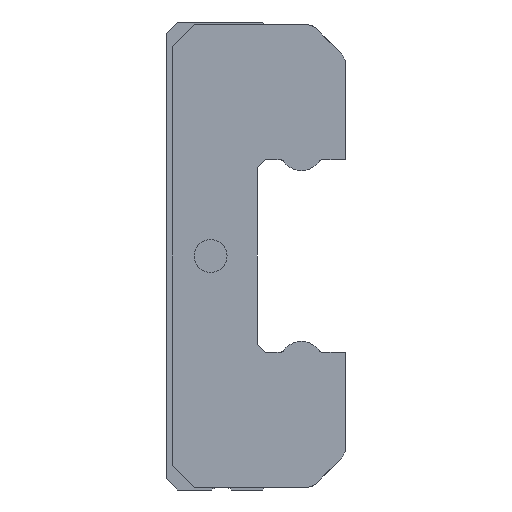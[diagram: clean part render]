
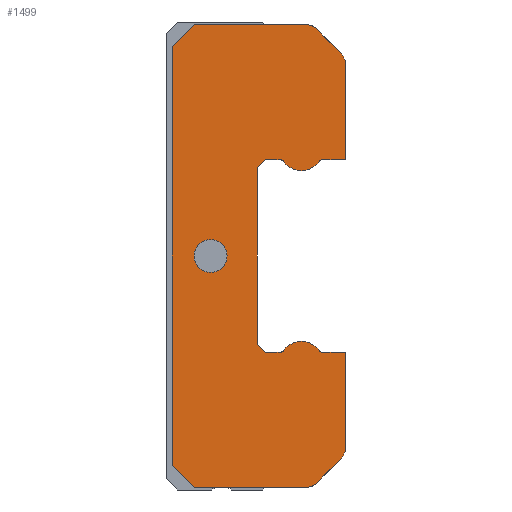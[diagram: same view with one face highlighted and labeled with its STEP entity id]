
A CAD part, left-side view. The second image highlights one B-rep face of the part: STEP entity #1499.
In plain terms, the highlighted planar face has unit normal (-1, 0, 0).
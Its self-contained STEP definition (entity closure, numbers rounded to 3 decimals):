
#64=CIRCLE('',#1576,0.5);
#70=CIRCLE('',#1603,0.5);
#80=CIRCLE('',#1622,0.6);
#81=CIRCLE('',#1623,0.5);
#82=CIRCLE('',#1624,0.5);
#83=CIRCLE('',#1625,0.15);
#84=CIRCLE('',#1626,0.8);
#85=CIRCLE('',#1627,0.15);
#86=CIRCLE('',#1628,0.15);
#87=CIRCLE('',#1629,0.8);
#88=CIRCLE('',#1630,0.15);
#302=ORIENTED_EDGE('',*,*,#673,.T.);
#303=ORIENTED_EDGE('',*,*,#674,.T.);
#304=ORIENTED_EDGE('',*,*,#652,.F.);
#305=ORIENTED_EDGE('',*,*,#675,.F.);
#306=ORIENTED_EDGE('',*,*,#561,.F.);
#307=ORIENTED_EDGE('',*,*,#557,.F.);
#308=ORIENTED_EDGE('',*,*,#551,.F.);
#309=ORIENTED_EDGE('',*,*,#578,.F.);
#310=ORIENTED_EDGE('',*,*,#644,.F.);
#311=ORIENTED_EDGE('',*,*,#633,.F.);
#312=ORIENTED_EDGE('',*,*,#642,.F.);
#313=ORIENTED_EDGE('',*,*,#639,.F.);
#314=ORIENTED_EDGE('',*,*,#602,.F.);
#315=ORIENTED_EDGE('',*,*,#676,.F.);
#316=ORIENTED_EDGE('',*,*,#654,.F.);
#317=ORIENTED_EDGE('',*,*,#677,.F.);
#318=ORIENTED_EDGE('',*,*,#678,.T.);
#319=ORIENTED_EDGE('',*,*,#679,.F.);
#320=ORIENTED_EDGE('',*,*,#680,.T.);
#321=ORIENTED_EDGE('',*,*,#681,.T.);
#322=ORIENTED_EDGE('',*,*,#682,.T.);
#323=ORIENTED_EDGE('',*,*,#683,.T.);
#324=ORIENTED_EDGE('',*,*,#684,.T.);
#325=ORIENTED_EDGE('',*,*,#685,.T.);
#326=ORIENTED_EDGE('',*,*,#686,.T.);
#327=ORIENTED_EDGE('',*,*,#687,.F.);
#328=ORIENTED_EDGE('',*,*,#688,.T.);
#551=EDGE_CURVE('',#759,#760,#907,.T.);
#557=EDGE_CURVE('',#760,#764,#64,.T.);
#561=EDGE_CURVE('',#764,#766,#913,.T.);
#578=EDGE_CURVE('',#779,#759,#930,.T.);
#602=EDGE_CURVE('',#798,#799,#952,.T.);
#633=EDGE_CURVE('',#820,#821,#979,.T.);
#639=EDGE_CURVE('',#799,#824,#70,.T.);
#642=EDGE_CURVE('',#824,#820,#986,.T.);
#644=EDGE_CURVE('',#821,#779,#988,.T.);
#652=EDGE_CURVE('',#828,#826,#996,.T.);
#654=EDGE_CURVE('',#829,#831,#998,.T.);
#673=EDGE_CURVE('',#846,#846,#80,.T.);
#674=EDGE_CURVE('',#847,#826,#1008,.T.);
#675=EDGE_CURVE('',#766,#828,#81,.T.);
#676=EDGE_CURVE('',#831,#798,#82,.T.);
#677=EDGE_CURVE('',#848,#829,#1009,.T.);
#678=EDGE_CURVE('',#848,#849,#83,.T.);
#679=EDGE_CURVE('',#850,#849,#84,.T.);
#680=EDGE_CURVE('',#850,#851,#85,.T.);
#681=EDGE_CURVE('',#851,#852,#1010,.T.);
#682=EDGE_CURVE('',#852,#853,#1011,.T.);
#683=EDGE_CURVE('',#853,#854,#1012,.T.);
#684=EDGE_CURVE('',#854,#855,#1013,.T.);
#685=EDGE_CURVE('',#855,#856,#1014,.T.);
#686=EDGE_CURVE('',#856,#857,#86,.T.);
#687=EDGE_CURVE('',#858,#857,#87,.T.);
#688=EDGE_CURVE('',#858,#847,#88,.T.);
#759=VERTEX_POINT('',#2183);
#760=VERTEX_POINT('',#2185);
#764=VERTEX_POINT('',#2197);
#766=VERTEX_POINT('',#2204);
#779=VERTEX_POINT('',#2236);
#798=VERTEX_POINT('',#2285);
#799=VERTEX_POINT('',#2287);
#820=VERTEX_POINT('',#2345);
#821=VERTEX_POINT('',#2347);
#824=VERTEX_POINT('',#2358);
#826=VERTEX_POINT('',#2376);
#828=VERTEX_POINT('',#2380);
#829=VERTEX_POINT('',#2384);
#831=VERTEX_POINT('',#2387);
#846=VERTEX_POINT('',#2423);
#847=VERTEX_POINT('',#2425);
#848=VERTEX_POINT('',#2429);
#849=VERTEX_POINT('',#2431);
#850=VERTEX_POINT('',#2433);
#851=VERTEX_POINT('',#2435);
#852=VERTEX_POINT('',#2437);
#853=VERTEX_POINT('',#2439);
#854=VERTEX_POINT('',#2441);
#855=VERTEX_POINT('',#2443);
#856=VERTEX_POINT('',#2445);
#857=VERTEX_POINT('',#2447);
#858=VERTEX_POINT('',#2449);
#907=LINE('',#2184,#1067);
#913=LINE('',#2203,#1073);
#930=LINE('',#2237,#1090);
#952=LINE('',#2286,#1112);
#979=LINE('',#2346,#1139);
#986=LINE('',#2362,#1146);
#988=LINE('',#2365,#1148);
#996=LINE('',#2381,#1156);
#998=LINE('',#2386,#1158);
#1008=LINE('',#2424,#1168);
#1009=LINE('',#2428,#1169);
#1010=LINE('',#2436,#1170);
#1011=LINE('',#2438,#1171);
#1012=LINE('',#2440,#1172);
#1013=LINE('',#2442,#1173);
#1014=LINE('',#2444,#1174);
#1067=VECTOR('',#1738,1000.);
#1073=VECTOR('',#1758,1000.);
#1090=VECTOR('',#1781,1000.);
#1112=VECTOR('',#1819,1000.);
#1139=VECTOR('',#1868,1000.);
#1146=VECTOR('',#1885,1000.);
#1148=VECTOR('',#1889,1000.);
#1156=VECTOR('',#1905,1000.);
#1158=VECTOR('',#1909,1000.);
#1168=VECTOR('',#1943,1000.);
#1169=VECTOR('',#1948,1000.);
#1170=VECTOR('',#1955,1000.);
#1171=VECTOR('',#1956,1000.);
#1172=VECTOR('',#1957,1000.);
#1173=VECTOR('',#1958,1000.);
#1174=VECTOR('',#1959,1000.);
#1241=EDGE_LOOP('',(#302));
#1242=EDGE_LOOP('',(#303,#304,#305,#306,#307,#308,#309,#310,#311,#312,#313,
#314,#315,#316,#317,#318,#319,#320,#321,#322,#323,#324,#325,#326,#327,#328));
#1341=FACE_BOUND('',#1241,.T.);
#1342=FACE_BOUND('',#1242,.T.);
#1438=PLANE('',#1621);
#1499=ADVANCED_FACE('',(#1341,#1342),#1438,.F.);
#1576=AXIS2_PLACEMENT_3D('',#2196,#1751,#1752);
#1603=AXIS2_PLACEMENT_3D('',#2357,#1879,#1880);
#1621=AXIS2_PLACEMENT_3D('',#2421,#1939,#1940);
#1622=AXIS2_PLACEMENT_3D('',#2422,#1941,#1942);
#1623=AXIS2_PLACEMENT_3D('',#2426,#1944,#1945);
#1624=AXIS2_PLACEMENT_3D('',#2427,#1946,#1947);
#1625=AXIS2_PLACEMENT_3D('',#2430,#1949,#1950);
#1626=AXIS2_PLACEMENT_3D('',#2432,#1951,#1952);
#1627=AXIS2_PLACEMENT_3D('',#2434,#1953,#1954);
#1628=AXIS2_PLACEMENT_3D('',#2446,#1960,#1961);
#1629=AXIS2_PLACEMENT_3D('',#2448,#1962,#1963);
#1630=AXIS2_PLACEMENT_3D('',#2450,#1964,#1965);
#1738=DIRECTION('',(0.,-1.,0.));
#1751=DIRECTION('',(1.,0.,0.));
#1752=DIRECTION('',(0.,0.,-1.));
#1758=DIRECTION('',(0.,-0.707,-0.707));
#1781=DIRECTION('',(0.,-0.707,0.707));
#1819=DIRECTION('',(0.,0.707,-0.707));
#1868=DIRECTION('',(0.,0.707,0.707));
#1879=DIRECTION('',(1.,0.,0.));
#1880=DIRECTION('',(0.,0.,-1.));
#1885=DIRECTION('',(0.,1.,0.));
#1889=DIRECTION('',(0.,0.,1.));
#1905=DIRECTION('',(0.,0.,-1.));
#1909=DIRECTION('',(0.,0.,-1.));
#1939=DIRECTION('',(1.,0.,0.));
#1940=DIRECTION('',(0.,0.,-1.));
#1941=DIRECTION('',(1.,0.,0.));
#1942=DIRECTION('',(0.,0.,-1.));
#1943=DIRECTION('',(0.,-1.,0.));
#1944=DIRECTION('',(1.,0.,0.));
#1945=DIRECTION('',(0.,0.,-1.));
#1946=DIRECTION('',(1.,0.,0.));
#1947=DIRECTION('',(0.,0.,-1.));
#1948=DIRECTION('',(0.,-1.,0.));
#1949=DIRECTION('',(1.,0.,0.));
#1950=DIRECTION('',(0.,0.,-1.));
#1951=DIRECTION('',(1.,0.,0.));
#1952=DIRECTION('',(0.,0.,-1.));
#1953=DIRECTION('',(1.,0.,0.));
#1954=DIRECTION('',(0.,0.,-1.));
#1955=DIRECTION('',(0.,1.,0.));
#1956=DIRECTION('',(0.,0.707,0.707));
#1957=DIRECTION('',(0.,0.,1.));
#1958=DIRECTION('',(0.,-0.707,0.707));
#1959=DIRECTION('',(0.,-1.,0.));
#1960=DIRECTION('',(1.,0.,0.));
#1961=DIRECTION('',(0.,0.,-1.));
#1962=DIRECTION('',(1.,0.,0.));
#1963=DIRECTION('',(0.,0.,-1.));
#1964=DIRECTION('',(1.,0.,0.));
#1965=DIRECTION('',(0.,0.,-1.));
#2183=CARTESIAN_POINT('',(-11.7,5.7,8.4));
#2184=CARTESIAN_POINT('',(-11.7,5.7,8.4));
#2185=CARTESIAN_POINT('',(-11.7,1.607,8.4));
#2196=CARTESIAN_POINT('',(-11.7,1.607,7.9));
#2197=CARTESIAN_POINT('',(-11.7,1.254,8.254));
#2203=CARTESIAN_POINT('',(-11.7,1.254,8.254));
#2204=CARTESIAN_POINT('',(-11.7,0.346,7.346));
#2236=CARTESIAN_POINT('',(-11.7,6.5,7.6));
#2237=CARTESIAN_POINT('',(-11.7,6.5,7.6));
#2285=CARTESIAN_POINT('',(-11.7,0.346,-7.346));
#2286=CARTESIAN_POINT('',(-11.7,0.346,-7.346));
#2287=CARTESIAN_POINT('',(-11.7,1.254,-8.254));
#2345=CARTESIAN_POINT('',(-11.7,5.7,-8.4));
#2346=CARTESIAN_POINT('',(-11.7,5.7,-8.4));
#2347=CARTESIAN_POINT('',(-11.7,6.5,-7.6));
#2357=CARTESIAN_POINT('',(-11.7,1.607,-7.9));
#2358=CARTESIAN_POINT('',(-11.7,1.607,-8.4));
#2362=CARTESIAN_POINT('',(-11.7,1.607,-8.4));
#2365=CARTESIAN_POINT('',(-11.7,6.5,-7.6));
#2376=CARTESIAN_POINT('',(-11.7,0.2,3.5));
#2380=CARTESIAN_POINT('',(-11.7,0.2,6.993));
#2381=CARTESIAN_POINT('',(-11.7,0.2,6.993));
#2384=CARTESIAN_POINT('',(-11.7,0.2,-3.5));
#2386=CARTESIAN_POINT('',(-11.7,0.2,6.993));
#2387=CARTESIAN_POINT('',(-11.7,0.2,-6.993));
#2421=CARTESIAN_POINT('',(-11.7,1.607,7.9));
#2422=CARTESIAN_POINT('',(-11.7,5.1,0.));
#2423=CARTESIAN_POINT('',(-11.7,5.1,-0.6));
#2424=CARTESIAN_POINT('',(-11.7,1.025,3.5));
#2425=CARTESIAN_POINT('',(-11.7,1.025,3.5));
#2426=CARTESIAN_POINT('',(-11.7,0.7,6.993));
#2427=CARTESIAN_POINT('',(-11.7,0.7,-6.993));
#2428=CARTESIAN_POINT('',(-11.7,1.607,-3.5));
#2429=CARTESIAN_POINT('',(-11.7,1.025,-3.5));
#2430=CARTESIAN_POINT('',(-11.7,1.025,-3.35));
#2431=CARTESIAN_POINT('',(-11.7,1.148,-3.437));
#2432=CARTESIAN_POINT('',(-11.7,1.8,-3.9));
#2433=CARTESIAN_POINT('',(-11.7,2.452,-3.437));
#2434=CARTESIAN_POINT('',(-11.7,2.575,-3.35));
#2435=CARTESIAN_POINT('',(-11.7,2.575,-3.5));
#2436=CARTESIAN_POINT('',(-11.7,2.575,-3.5));
#2437=CARTESIAN_POINT('',(-11.7,3.1,-3.5));
#2438=CARTESIAN_POINT('',(-11.7,3.1,-3.5));
#2439=CARTESIAN_POINT('',(-11.7,3.4,-3.2));
#2440=CARTESIAN_POINT('',(-11.7,3.4,-3.2));
#2441=CARTESIAN_POINT('',(-11.7,3.4,3.2));
#2442=CARTESIAN_POINT('',(-11.7,3.4,3.2));
#2443=CARTESIAN_POINT('',(-11.7,3.1,3.5));
#2444=CARTESIAN_POINT('',(-11.7,3.1,3.5));
#2445=CARTESIAN_POINT('',(-11.7,2.575,3.5));
#2446=CARTESIAN_POINT('',(-11.7,2.575,3.35));
#2447=CARTESIAN_POINT('',(-11.7,2.452,3.437));
#2448=CARTESIAN_POINT('',(-11.7,1.8,3.9));
#2449=CARTESIAN_POINT('',(-11.7,1.148,3.437));
#2450=CARTESIAN_POINT('',(-11.7,1.025,3.35));
